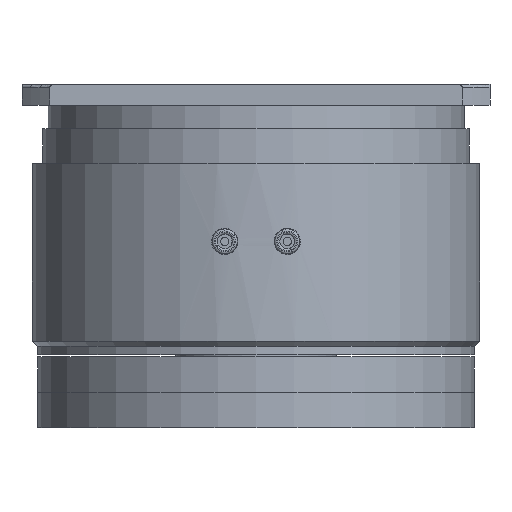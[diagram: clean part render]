
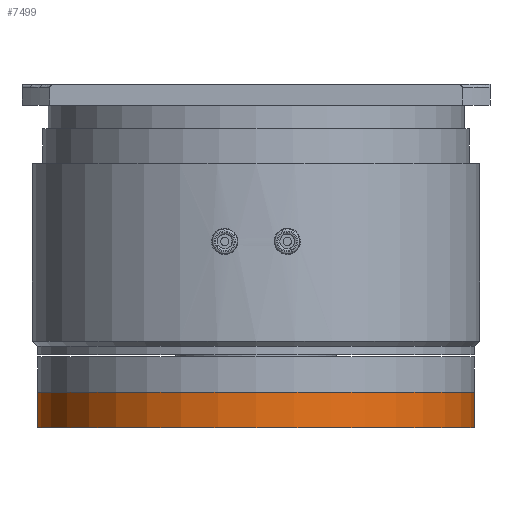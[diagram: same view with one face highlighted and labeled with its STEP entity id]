
A CAD part, front view. The second image highlights one B-rep face of the part: STEP entity #7499.
In plain terms, the highlighted cylindrical face has radius 21 mm (diameter 42 mm), a partial arc.
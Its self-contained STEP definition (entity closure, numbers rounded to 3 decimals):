
#55 = AXIS2_PLACEMENT_3D ( 'NONE', #7728, #4258, #1707 ) ;
#686 = EDGE_LOOP ( 'NONE', ( #2683, #1004, #6687, #8368 ) ) ;
#888 = CIRCLE ( 'NONE', #55, 21. ) ;
#1004 = ORIENTED_EDGE ( 'NONE', *, *, #3431, .T. ) ;
#1035 = VECTOR ( 'NONE', #7373, 1000. ) ;
#1444 = CARTESIAN_POINT ( 'NONE',  ( -21., 0., -8.6 ) ) ;
#1492 = DIRECTION ( 'NONE',  ( 0., 0., 1. ) ) ;
#1538 = CARTESIAN_POINT ( 'NONE',  ( 0., 0., 3.972 ) ) ;
#1707 = DIRECTION ( 'NONE',  ( 1., 0., 0. ) ) ;
#1746 = AXIS2_PLACEMENT_3D ( 'NONE', #6993, #5018, #8311 ) ;
#2269 = CARTESIAN_POINT ( 'NONE',  ( -21., 0., -12. ) ) ;
#2467 = DIRECTION ( 'NONE',  ( 0., 0., 1. ) ) ;
#2543 = CARTESIAN_POINT ( 'NONE',  ( -21., 0., 3.972 ) ) ;
#2683 = ORIENTED_EDGE ( 'NONE', *, *, #7386, .F. ) ;
#2765 = DIRECTION ( 'NONE',  ( 1., 0., 0. ) ) ;
#3026 = VERTEX_POINT ( 'NONE', #4753 ) ;
#3116 = LINE ( 'NONE', #5788, #7324 ) ;
#3313 = VERTEX_POINT ( 'NONE', #1444 ) ;
#3431 = EDGE_CURVE ( 'NONE', #8039, #3026, #888, .T. ) ;
#4258 = DIRECTION ( 'NONE',  ( 0., 0., 1. ) ) ;
#4262 = EDGE_CURVE ( 'NONE', #3313, #5310, #5813, .T. ) ;
#4753 = CARTESIAN_POINT ( 'NONE',  ( 21., 0., -12. ) ) ;
#5018 = DIRECTION ( 'NONE',  ( 0., 0., 1. ) ) ;
#5310 = VERTEX_POINT ( 'NONE', #5561 ) ;
#5561 = CARTESIAN_POINT ( 'NONE',  ( 21., 0., -8.6 ) ) ;
#5655 = AXIS2_PLACEMENT_3D ( 'NONE', #1538, #1492, #2765 ) ;
#5788 = CARTESIAN_POINT ( 'NONE',  ( 21., 0., 3.972 ) ) ;
#5813 = CIRCLE ( 'NONE', #1746, 21. ) ;
#6006 = LINE ( 'NONE', #2543, #1035 ) ;
#6099 = CYLINDRICAL_SURFACE ( 'NONE', #5655, 21. ) ;
#6230 = FACE_OUTER_BOUND ( 'NONE', #686, .T. ) ;
#6687 = ORIENTED_EDGE ( 'NONE', *, *, #7256, .T. ) ;
#6993 = CARTESIAN_POINT ( 'NONE',  ( 0., 0., -8.6 ) ) ;
#7256 = EDGE_CURVE ( 'NONE', #3026, #5310, #3116, .T. ) ;
#7324 = VECTOR ( 'NONE', #2467, 1000. ) ;
#7373 = DIRECTION ( 'NONE',  ( 0., 0., 1. ) ) ;
#7386 = EDGE_CURVE ( 'NONE', #8039, #3313, #6006, .T. ) ;
#7499 = ADVANCED_FACE ( 'NONE', ( #6230 ), #6099, .T. ) ;
#7728 = CARTESIAN_POINT ( 'NONE',  ( 0., 0., -12. ) ) ;
#8039 = VERTEX_POINT ( 'NONE', #2269 ) ;
#8311 = DIRECTION ( 'NONE',  ( 1., 0., 0. ) ) ;
#8368 = ORIENTED_EDGE ( 'NONE', *, *, #4262, .F. ) ;
